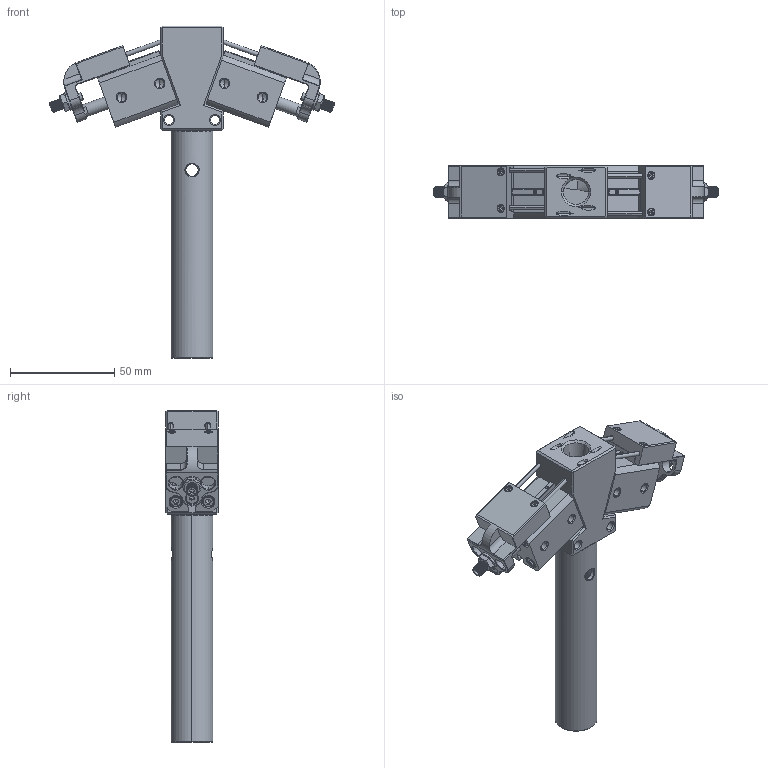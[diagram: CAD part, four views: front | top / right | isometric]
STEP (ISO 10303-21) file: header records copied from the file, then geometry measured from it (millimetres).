
FILE_DESCRIPTION (( 'STEP AP214' ), '1' );
FILE_NAME ('GN2010.STEP', '2020-09-22T09:16:07', ( 'admin' ), ( '' ), 'SwSTEP 2.0', 'SolidWorks 2016', '' );
FILE_SCHEMA (( 'AUTOMOTIVE_DESIGN' ));
Length unit declared in the file: millimetre
Products named in the file (1): GN2010
Bounding box: 136.67 x 25 x 159 mm (x, y, z)
Surface area: 50499.2 mm2 (no closed solid volume)
Topology: 0 solids, 54 shells, 1894 faces, 4357 edges, 2578 vertices
Faces by surface type: plane 772, cone 522, cylinder 520, bspline 80
Entity records: 67810 total; most frequent: CARTESIAN_POINT 26215, ORIENTED_EDGE 8546, DIRECTION 8405, EDGE_CURVE 4278, AXIS2_PLACEMENT_3D 3053, VERTEX_POINT 2577, LINE 2299, VECTOR 2299
